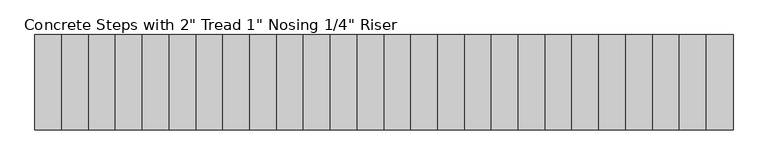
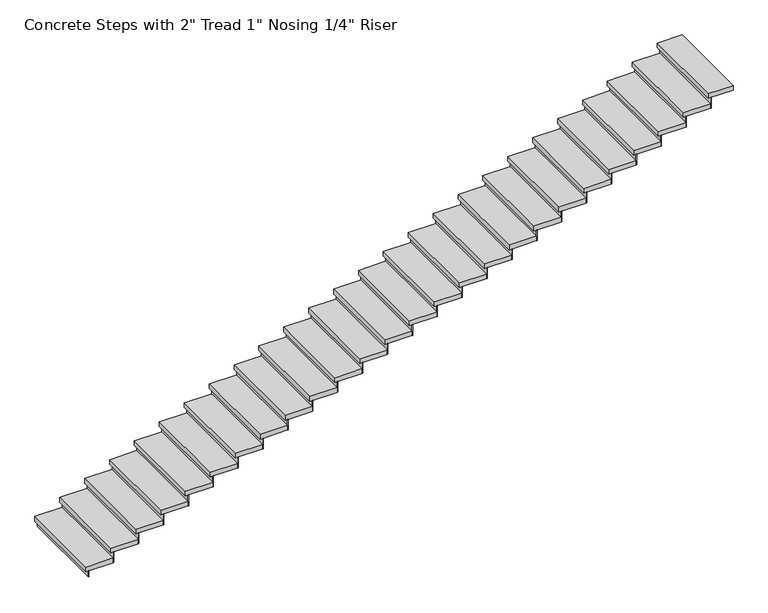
"""IFC4 building model written with IfcOpenShell, lengths in millimetres: stair flight geometry."""

from ifc_helpers import new_model, si_unit, frame, origin, origin_with_axes, place, context, project, spatial, polyline, outline, extrude, source, transform, mapped, element, save


def stair_flight_d18736ff(model_context):
    return source(origin(), model_context, "Body", "SweptSolid", [
        extrude(outline(polyline([(-13694.7463306, 3439.0965519), (-13701.0963306, 3439.0965519), (-13701.0963306, 4353.4965519), (-13694.7463306, 4353.4965519), (-13694.7463306, 3439.0965519)])), origin_with_axes(), (0.0, 0.0, 1.0), 66.4307692),
        extrude(outline(polyline([(-13443.2863306, 4353.4965519), (-13443.2863306, 3439.0965519), (-13726.4963306, 3439.0965519), (-13726.4963306, 4353.4965519), (-13443.2863306, 4353.4965519)])), frame((0.0, 0.0, 66.4307692), z_axis=(0.0, 0.0, 1.0), x_axis=(1.0, 0.0, 0.0)), (0.0, 0.0, 1.0), 50.8),
        extrude(outline(polyline([(-13436.9363306, 3439.0965519), (-13443.2863306, 3439.0965519), (-13443.2863306, 4353.4965519), (-13436.9363306, 4353.4965519), (-13436.9363306, 3439.0965519)])), frame((0.0, 0.0, 66.4307692), z_axis=(0.0, 0.0, 1.0), x_axis=(1.0, 0.0, 0.0)), (0.0, 0.0, 1.0), 117.2307692),
        extrude(outline(polyline([(-13185.4763306, 4353.4965519), (-13185.4763306, 3439.0965519), (-13468.6863306, 3439.0965519), (-13468.6863306, 4353.4965519), (-13185.4763306, 4353.4965519)])), frame((0.0, 0.0, 183.6615385), z_axis=(0.0, 0.0, 1.0), x_axis=(1.0, 0.0, 0.0)), (0.0, 0.0, 1.0), 50.8),
        extrude(outline(polyline([(-13179.1263306, 3439.0965519), (-13185.4763306, 3439.0965519), (-13185.4763306, 4353.4965519), (-13179.1263306, 4353.4965519), (-13179.1263306, 3439.0965519)])), frame((0.0, 0.0, 183.6615385), z_axis=(0.0, 0.0, 1.0), x_axis=(1.0, 0.0, 0.0)), (0.0, 0.0, 1.0), 117.2307692),
        extrude(outline(polyline([(-12927.6663306, 4353.4965519), (-12927.6663306, 3439.0965519), (-13210.8763306, 3439.0965519), (-13210.8763306, 4353.4965519), (-12927.6663306, 4353.4965519)])), frame((0.0, 0.0, 300.8923077), z_axis=(0.0, 0.0, 1.0), x_axis=(1.0, 0.0, 0.0)), (0.0, 0.0, 1.0), 50.8),
        extrude(outline(polyline([(-12921.3163306, 3439.0965519), (-12927.6663306, 3439.0965519), (-12927.6663306, 4353.4965519), (-12921.3163306, 4353.4965519), (-12921.3163306, 3439.0965519)])), frame((0.0, 0.0, 300.8923077), z_axis=(0.0, 0.0, 1.0), x_axis=(1.0, 0.0, 0.0)), (0.0, 0.0, 1.0), 117.2307692),
        extrude(outline(polyline([(-12669.8563306, 4353.4965519), (-12669.8563306, 3439.0965519), (-12953.0663306, 3439.0965519), (-12953.0663306, 4353.4965519), (-12669.8563306, 4353.4965519)])), frame((0.0, 0.0, 418.1230769), z_axis=(0.0, 0.0, 1.0), x_axis=(1.0, 0.0, 0.0)), (0.0, 0.0, 1.0), 50.8),
        extrude(outline(polyline([(-12663.5063306, 3439.0965519), (-12669.8563306, 3439.0965519), (-12669.8563306, 4353.4965519), (-12663.5063306, 4353.4965519), (-12663.5063306, 3439.0965519)])), frame((0.0, 0.0, 418.1230769), z_axis=(0.0, 0.0, 1.0), x_axis=(1.0, 0.0, 0.0)), (0.0, 0.0, 1.0), 117.2307692),
        extrude(outline(polyline([(-12412.0463306, 4353.4965519), (-12412.0463306, 3439.0965519), (-12695.2563306, 3439.0965519), (-12695.2563306, 4353.4965519), (-12412.0463306, 4353.4965519)])), frame((0.0, 0.0, 535.3538462), z_axis=(0.0, 0.0, 1.0), x_axis=(1.0, 0.0, 0.0)), (0.0, 0.0, 1.0), 50.8),
        extrude(outline(polyline([(-12405.6963306, 3439.0965519), (-12412.0463306, 3439.0965519), (-12412.0463306, 4353.4965519), (-12405.6963306, 4353.4965519), (-12405.6963306, 3439.0965519)])), frame((0.0, 0.0, 535.3538462), z_axis=(0.0, 0.0, 1.0), x_axis=(1.0, 0.0, 0.0)), (0.0, 0.0, 1.0), 117.2307692),
        extrude(outline(polyline([(-12154.2363306, 4353.4965519), (-12154.2363306, 3439.0965519), (-12437.4463306, 3439.0965519), (-12437.4463306, 4353.4965519), (-12154.2363306, 4353.4965519)])), frame((0.0, 0.0, 652.5846154), z_axis=(0.0, 0.0, 1.0), x_axis=(1.0, 0.0, 0.0)), (0.0, 0.0, 1.0), 50.8),
        extrude(outline(polyline([(-12147.8863306, 3439.0965519), (-12154.2363306, 3439.0965519), (-12154.2363306, 4353.4965519), (-12147.8863306, 4353.4965519), (-12147.8863306, 3439.0965519)])), frame((0.0, 0.0, 652.5846154), z_axis=(0.0, 0.0, 1.0), x_axis=(1.0, 0.0, 0.0)), (0.0, 0.0, 1.0), 117.2307692),
        extrude(outline(polyline([(-11896.4263306, 4353.4965519), (-11896.4263306, 3439.0965519), (-12179.6363306, 3439.0965519), (-12179.6363306, 4353.4965519), (-11896.4263306, 4353.4965519)])), frame((0.0, 0.0, 769.8153846), z_axis=(0.0, 0.0, 1.0), x_axis=(1.0, 0.0, 0.0)), (0.0, 0.0, 1.0), 50.8),
        extrude(outline(polyline([(-11890.0763306, 3439.0965519), (-11896.4263306, 3439.0965519), (-11896.4263306, 4353.4965519), (-11890.0763306, 4353.4965519), (-11890.0763306, 3439.0965519)])), frame((0.0, 0.0, 769.8153846), z_axis=(0.0, 0.0, 1.0), x_axis=(1.0, 0.0, 0.0)), (0.0, 0.0, 1.0), 117.2307692),
        extrude(outline(polyline([(-11638.6163306, 4353.4965519), (-11638.6163306, 3439.0965519), (-11921.8263306, 3439.0965519), (-11921.8263306, 4353.4965519), (-11638.6163306, 4353.4965519)])), frame((0.0, 0.0, 887.0461538), z_axis=(0.0, 0.0, 1.0), x_axis=(1.0, 0.0, 0.0)), (0.0, 0.0, 1.0), 50.8),
        extrude(outline(polyline([(-11632.2663306, 3439.0965519), (-11638.6163306, 3439.0965519), (-11638.6163306, 4353.4965519), (-11632.2663306, 4353.4965519), (-11632.2663306, 3439.0965519)])), frame((0.0, 0.0, 887.0461538), z_axis=(0.0, 0.0, 1.0), x_axis=(1.0, 0.0, 0.0)), (0.0, 0.0, 1.0), 117.2307692),
        extrude(outline(polyline([(-11380.8063306, 4353.4965519), (-11380.8063306, 3439.0965519), (-11664.0163306, 3439.0965519), (-11664.0163306, 4353.4965519), (-11380.8063306, 4353.4965519)])), frame((0.0, 0.0, 1004.2769231), z_axis=(0.0, 0.0, 1.0), x_axis=(1.0, 0.0, 0.0)), (0.0, 0.0, 1.0), 50.8),
        extrude(outline(polyline([(-11374.4563306, 3439.0965519), (-11380.8063306, 3439.0965519), (-11380.8063306, 4353.4965519), (-11374.4563306, 4353.4965519), (-11374.4563306, 3439.0965519)])), frame((0.0, 0.0, 1004.2769231), z_axis=(0.0, 0.0, 1.0), x_axis=(1.0, 0.0, 0.0)), (0.0, 0.0, 1.0), 117.2307692),
        extrude(outline(polyline([(-11122.9963306, 4353.4965519), (-11122.9963306, 3439.0965519), (-11406.2063306, 3439.0965519), (-11406.2063306, 4353.4965519), (-11122.9963306, 4353.4965519)])), frame((0.0, 0.0, 1121.5076923), z_axis=(0.0, 0.0, 1.0), x_axis=(1.0, 0.0, 0.0)), (0.0, 0.0, 1.0), 50.8),
        extrude(outline(polyline([(-11116.6463306, 3439.0965519), (-11122.9963306, 3439.0965519), (-11122.9963306, 4353.4965519), (-11116.6463306, 4353.4965519), (-11116.6463306, 3439.0965519)])), frame((0.0, 0.0, 1121.5076923), z_axis=(0.0, 0.0, 1.0), x_axis=(1.0, 0.0, 0.0)), (0.0, 0.0, 1.0), 117.2307692),
        extrude(outline(polyline([(-10865.1863306, 4353.4965519), (-10865.1863306, 3439.0965519), (-11148.3963306, 3439.0965519), (-11148.3963306, 4353.4965519), (-10865.1863306, 4353.4965519)])), frame((0.0, 0.0, 1238.7384615), z_axis=(0.0, 0.0, 1.0), x_axis=(1.0, 0.0, 0.0)), (0.0, 0.0, 1.0), 50.8),
        extrude(outline(polyline([(-10858.8363306, 3439.0965519), (-10865.1863306, 3439.0965519), (-10865.1863306, 4353.4965519), (-10858.8363306, 4353.4965519), (-10858.8363306, 3439.0965519)])), frame((0.0, 0.0, 1238.7384615), z_axis=(0.0, 0.0, 1.0), x_axis=(1.0, 0.0, 0.0)), (0.0, 0.0, 1.0), 117.2307692),
        extrude(outline(polyline([(-10607.3763306, 4353.4965519), (-10607.3763306, 3439.0965519), (-10890.5863306, 3439.0965519), (-10890.5863306, 4353.4965519), (-10607.3763306, 4353.4965519)])), frame((0.0, 0.0, 1355.9692308), z_axis=(0.0, 0.0, 1.0), x_axis=(1.0, 0.0, 0.0)), (0.0, 0.0, 1.0), 50.8),
        extrude(outline(polyline([(-10601.0263306, 3439.0965519), (-10607.3763306, 3439.0965519), (-10607.3763306, 4353.4965519), (-10601.0263306, 4353.4965519), (-10601.0263306, 3439.0965519)])), frame((0.0, 0.0, 1355.9692308), z_axis=(0.0, 0.0, 1.0), x_axis=(1.0, 0.0, 0.0)), (0.0, 0.0, 1.0), 117.2307692),
        extrude(outline(polyline([(-10349.5663306, 4353.4965519), (-10349.5663306, 3439.0965519), (-10632.7763306, 3439.0965519), (-10632.7763306, 4353.4965519), (-10349.5663306, 4353.4965519)])), frame((0.0, 0.0, 1473.2), z_axis=(0.0, 0.0, 1.0), x_axis=(1.0, 0.0, 0.0)), (0.0, 0.0, 1.0), 50.8),
        extrude(outline(polyline([(-10343.2163306, 3439.0965519), (-10349.5663306, 3439.0965519), (-10349.5663306, 4353.4965519), (-10343.2163306, 4353.4965519), (-10343.2163306, 3439.0965519)])), frame((0.0, 0.0, 1473.2), z_axis=(0.0, 0.0, 1.0), x_axis=(1.0, 0.0, 0.0)), (0.0, 0.0, 1.0), 117.2307692),
        extrude(outline(polyline([(-10091.7563306, 4353.4965519), (-10091.7563306, 3439.0965519), (-10374.9663306, 3439.0965519), (-10374.9663306, 4353.4965519), (-10091.7563306, 4353.4965519)])), frame((0.0, 0.0, 1590.4307692), z_axis=(0.0, 0.0, 1.0), x_axis=(1.0, 0.0, 0.0)), (0.0, 0.0, 1.0), 50.8),
        extrude(outline(polyline([(-10085.4063306, 3439.0965519), (-10091.7563306, 3439.0965519), (-10091.7563306, 4353.4965519), (-10085.4063306, 4353.4965519), (-10085.4063306, 3439.0965519)])), frame((0.0, 0.0, 1590.4307692), z_axis=(0.0, 0.0, 1.0), x_axis=(1.0, 0.0, 0.0)), (0.0, 0.0, 1.0), 117.2307692),
        extrude(outline(polyline([(-9833.9463306, 4353.4965519), (-9833.9463306, 3439.0965519), (-10117.1563306, 3439.0965519), (-10117.1563306, 4353.4965519), (-9833.9463306, 4353.4965519)])), frame((0.0, 0.0, 1707.6615385), z_axis=(0.0, 0.0, 1.0), x_axis=(1.0, 0.0, 0.0)), (0.0, 0.0, 1.0), 50.8),
        extrude(outline(polyline([(-9827.5963306, 3439.0965519), (-9833.9463306, 3439.0965519), (-9833.9463306, 4353.4965519), (-9827.5963306, 4353.4965519), (-9827.5963306, 3439.0965519)])), frame((0.0, 0.0, 1707.6615385), z_axis=(0.0, 0.0, 1.0), x_axis=(1.0, 0.0, 0.0)), (0.0, 0.0, 1.0), 117.2307692),
        extrude(outline(polyline([(-9576.1363306, 4353.4965519), (-9576.1363306, 3439.0965519), (-9859.3463306, 3439.0965519), (-9859.3463306, 4353.4965519), (-9576.1363306, 4353.4965519)])), frame((0.0, 0.0, 1824.8923077), z_axis=(0.0, 0.0, 1.0), x_axis=(1.0, 0.0, 0.0)), (0.0, 0.0, 1.0), 50.8),
        extrude(outline(polyline([(-9569.7863306, 3439.0965519), (-9576.1363306, 3439.0965519), (-9576.1363306, 4353.4965519), (-9569.7863306, 4353.4965519), (-9569.7863306, 3439.0965519)])), frame((0.0, 0.0, 1824.8923077), z_axis=(0.0, 0.0, 1.0), x_axis=(1.0, 0.0, 0.0)), (0.0, 0.0, 1.0), 117.2307692),
        extrude(outline(polyline([(-9318.3263306, 4353.4965519), (-9318.3263306, 3439.0965519), (-9601.5363306, 3439.0965519), (-9601.5363306, 4353.4965519), (-9318.3263306, 4353.4965519)])), frame((0.0, 0.0, 1942.1230769), z_axis=(0.0, 0.0, 1.0), x_axis=(1.0, 0.0, 0.0)), (0.0, 0.0, 1.0), 50.8),
        extrude(outline(polyline([(-9311.9763306, 3439.0965519), (-9318.3263306, 3439.0965519), (-9318.3263306, 4353.4965519), (-9311.9763306, 4353.4965519), (-9311.9763306, 3439.0965519)])), frame((0.0, 0.0, 1942.1230769), z_axis=(0.0, 0.0, 1.0), x_axis=(1.0, 0.0, 0.0)), (0.0, 0.0, 1.0), 117.2307692),
        extrude(outline(polyline([(-9060.5163306, 4353.4965519), (-9060.5163306, 3439.0965519), (-9343.7263306, 3439.0965519), (-9343.7263306, 4353.4965519), (-9060.5163306, 4353.4965519)])), frame((0.0, 0.0, 2059.3538462), z_axis=(0.0, 0.0, 1.0), x_axis=(1.0, 0.0, 0.0)), (0.0, 0.0, 1.0), 50.8),
        extrude(outline(polyline([(-9054.1663306, 3439.0965519), (-9060.5163306, 3439.0965519), (-9060.5163306, 4353.4965519), (-9054.1663306, 4353.4965519), (-9054.1663306, 3439.0965519)])), frame((0.0, 0.0, 2059.3538462), z_axis=(0.0, 0.0, 1.0), x_axis=(1.0, 0.0, 0.0)), (0.0, 0.0, 1.0), 117.2307692),
        extrude(outline(polyline([(-8802.7063306, 4353.4965519), (-8802.7063306, 3439.0965519), (-9085.9163306, 3439.0965519), (-9085.9163306, 4353.4965519), (-8802.7063306, 4353.4965519)])), frame((0.0, 0.0, 2176.5846154), z_axis=(0.0, 0.0, 1.0), x_axis=(1.0, 0.0, 0.0)), (0.0, 0.0, 1.0), 50.8),
        extrude(outline(polyline([(-8796.3563306, 3439.0965519), (-8802.7063306, 3439.0965519), (-8802.7063306, 4353.4965519), (-8796.3563306, 4353.4965519), (-8796.3563306, 3439.0965519)])), frame((0.0, 0.0, 2176.5846154), z_axis=(0.0, 0.0, 1.0), x_axis=(1.0, 0.0, 0.0)), (0.0, 0.0, 1.0), 117.2307692),
        extrude(outline(polyline([(-8544.8963306, 4353.4965519), (-8544.8963306, 3439.0965519), (-8828.1063306, 3439.0965519), (-8828.1063306, 4353.4965519), (-8544.8963306, 4353.4965519)])), frame((0.0, 0.0, 2293.8153846), z_axis=(0.0, 0.0, 1.0), x_axis=(1.0, 0.0, 0.0)), (0.0, 0.0, 1.0), 50.8),
        extrude(outline(polyline([(-8538.5463306, 3439.0965519), (-8544.8963306, 3439.0965519), (-8544.8963306, 4353.4965519), (-8538.5463306, 4353.4965519), (-8538.5463306, 3439.0965519)])), frame((0.0, 0.0, 2293.8153846), z_axis=(0.0, 0.0, 1.0), x_axis=(1.0, 0.0, 0.0)), (0.0, 0.0, 1.0), 117.2307692),
        extrude(outline(polyline([(-8287.0863306, 4353.4965519), (-8287.0863306, 3439.0965519), (-8570.2963306, 3439.0965519), (-8570.2963306, 4353.4965519), (-8287.0863306, 4353.4965519)])), frame((0.0, 0.0, 2411.0461538), z_axis=(0.0, 0.0, 1.0), x_axis=(1.0, 0.0, 0.0)), (0.0, 0.0, 1.0), 50.8),
        extrude(outline(polyline([(-8280.7363306, 3439.0965519), (-8287.0863306, 3439.0965519), (-8287.0863306, 4353.4965519), (-8280.7363306, 4353.4965519), (-8280.7363306, 3439.0965519)])), frame((0.0, 0.0, 2411.0461538), z_axis=(0.0, 0.0, 1.0), x_axis=(1.0, 0.0, 0.0)), (0.0, 0.0, 1.0), 117.2307692),
        extrude(outline(polyline([(-8029.2763306, 4353.4965519), (-8029.2763306, 3439.0965519), (-8312.4863306, 3439.0965519), (-8312.4863306, 4353.4965519), (-8029.2763306, 4353.4965519)])), frame((0.0, 0.0, 2528.2769231), z_axis=(0.0, 0.0, 1.0), x_axis=(1.0, 0.0, 0.0)), (0.0, 0.0, 1.0), 50.8),
        extrude(outline(polyline([(-8022.9263306, 3439.0965519), (-8029.2763306, 3439.0965519), (-8029.2763306, 4353.4965519), (-8022.9263306, 4353.4965519), (-8022.9263306, 3439.0965519)])), frame((0.0, 0.0, 2528.2769231), z_axis=(0.0, 0.0, 1.0), x_axis=(1.0, 0.0, 0.0)), (0.0, 0.0, 1.0), 117.2307692),
        extrude(outline(polyline([(-7771.4663306, 4353.4965519), (-7771.4663306, 3439.0965519), (-8054.6763306, 3439.0965519), (-8054.6763306, 4353.4965519), (-7771.4663306, 4353.4965519)])), frame((0.0, 0.0, 2645.5076923), z_axis=(0.0, 0.0, 1.0), x_axis=(1.0, 0.0, 0.0)), (0.0, 0.0, 1.0), 50.8),
        extrude(outline(polyline([(-7765.1163306, 3439.0965519), (-7771.4663306, 3439.0965519), (-7771.4663306, 4353.4965519), (-7765.1163306, 4353.4965519), (-7765.1163306, 3439.0965519)])), frame((0.0, 0.0, 2645.5076923), z_axis=(0.0, 0.0, 1.0), x_axis=(1.0, 0.0, 0.0)), (0.0, 0.0, 1.0), 117.2307692),
        extrude(outline(polyline([(-7513.6563306, 4353.4965519), (-7513.6563306, 3439.0965519), (-7796.8663306, 3439.0965519), (-7796.8663306, 4353.4965519), (-7513.6563306, 4353.4965519)])), frame((0.0, 0.0, 2762.7384615), z_axis=(0.0, 0.0, 1.0), x_axis=(1.0, 0.0, 0.0)), (0.0, 0.0, 1.0), 50.8),
        extrude(outline(polyline([(-7507.3063306, 3439.0965519), (-7513.6563306, 3439.0965519), (-7513.6563306, 4353.4965519), (-7507.3063306, 4353.4965519), (-7507.3063306, 3439.0965519)])), frame((0.0, 0.0, 2762.7384615), z_axis=(0.0, 0.0, 1.0), x_axis=(1.0, 0.0, 0.0)), (0.0, 0.0, 1.0), 117.2307692),
        extrude(outline(polyline([(-7255.8463306, 4353.4965519), (-7255.8463306, 3439.0965519), (-7539.0563306, 3439.0965519), (-7539.0563306, 4353.4965519), (-7255.8463306, 4353.4965519)])), frame((0.0, 0.0, 2879.9692308), z_axis=(0.0, 0.0, 1.0), x_axis=(1.0, 0.0, 0.0)), (0.0, 0.0, 1.0), 50.8),
        extrude(outline(polyline([(-7249.4963306, 3439.0965519), (-7255.8463306, 3439.0965519), (-7255.8463306, 4353.4965519), (-7249.4963306, 4353.4965519), (-7249.4963306, 3439.0965519)])), frame((0.0, 0.0, 2879.9692308), z_axis=(0.0, 0.0, 1.0), x_axis=(1.0, 0.0, 0.0)), (0.0, 0.0, 1.0), 117.2307692),
        extrude(outline(polyline([(-7023.4363306, 4353.4965519), (-7023.4363306, 3439.0965519), (-7281.2463306, 3439.0965519), (-7281.2463306, 4353.4965519), (-7023.4363306, 4353.4965519)])), frame((0.0, 0.0, 2997.2), z_axis=(0.0, 0.0, 1.0), x_axis=(1.0, 0.0, 0.0)), (0.0, 0.0, 1.0), 50.8),
    ])


if __name__ == "__main__":
    model = new_model("IFC4")
    model_context = context("Model", 3, world=origin())
    ifc_project = project(units=[si_unit("LENGTHUNIT", "METRE", prefix="MILLI")], contexts=[model_context])
    site = spatial("IfcSite", under=ifc_project)
    building = spatial("IfcBuilding", under=site)
    placement = place(None, origin())
    stair_flight_shape = stair_flight_d18736ff(model_context)
    element("IfcStairFlight", 1, ObjectType="Concrete Steps with 2\" Tread 1\" Nosing 1/4\" Riser", at=placement, inside=building, context=model_context, shape_type="MappedRepresentation", body=[
        mapped(stair_flight_shape, transform((0.0, 0.0, 0.0), x_axis=(1.0, 0.0, 0.0), y_axis=(0.0, 1.0, 0.0), z_axis=(0.0, 0.0, 1.0))),
    ])
    save(model, "model.ifc")
